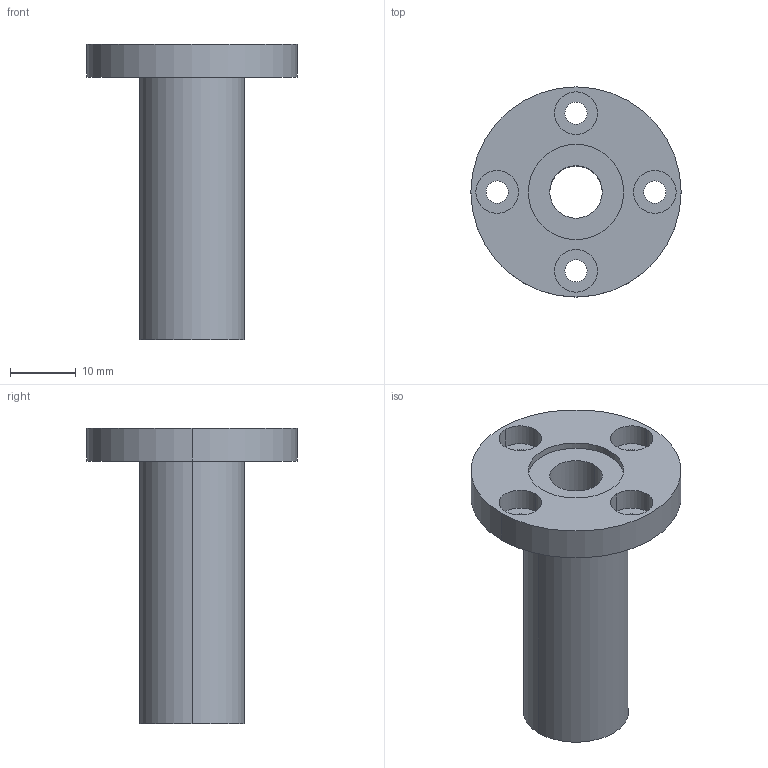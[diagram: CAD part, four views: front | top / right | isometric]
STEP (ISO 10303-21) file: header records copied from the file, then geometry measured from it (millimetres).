
FILE_DESCRIPTION((''),'2;1');
FILE_NAME('C:\Documents and Settings\ｿﾀﾀ蠑ｷ1\ｹﾙﾅﾁ ﾈｭｸ饅\ｺﾎﾇｰﾆﾄﾀﾏ\ﾁｦﾇｰ\LMEF__LUU\LMEF8LUU.stp','2005-06-15T10:52:45',('ｿﾀﾀ蠑ｷ1'),(''),'Autodesk Inventor 9','Autodesk Inventor 9','');
FILE_SCHEMA(('AUTOMOTIVE_DESIGN { 1 0 10303 214 1 1 1 1 }'));
Length unit declared in the file: millimetre
Products named in the file (1): LMEF__(L)
Bounding box: 32 x 32 x 45 mm (x, y, z)
Volume: 9072.3 mm3; surface area: 5462.6 mm2
Topology: 1 solids, 1 shells, 35 faces, 78 edges, 52 vertices
Faces by surface type: bspline 20, cylinder 10, plane 5
Entity records: 1255 total; most frequent: CARTESIAN_POINT 450, DIRECTION 162, ORIENTED_EDGE 156, EDGE_CURVE 78, AXIS2_PLACEMENT_3D 68, VERTEX_POINT 52, CIRCLE 52, EDGE_LOOP 52
